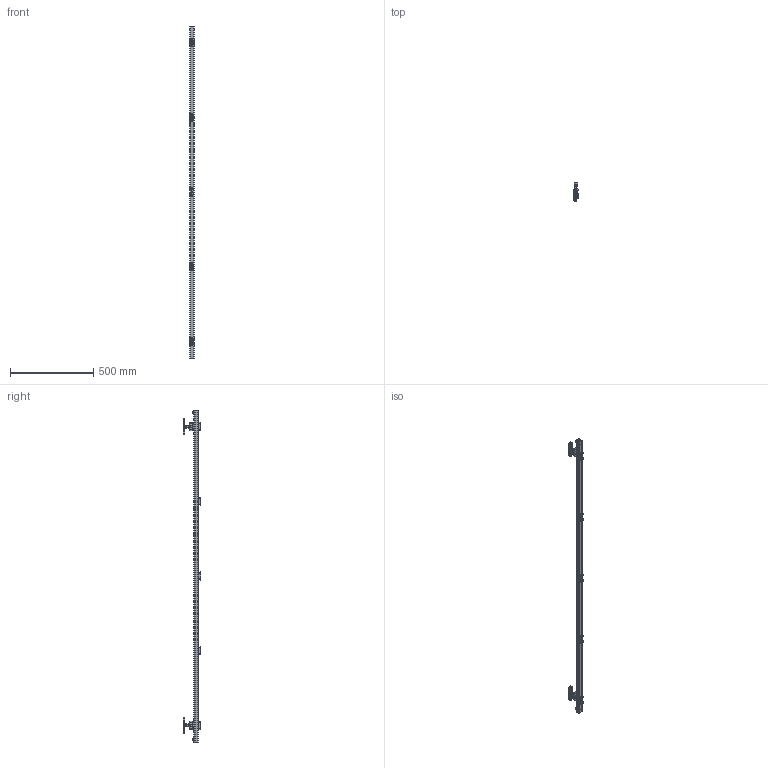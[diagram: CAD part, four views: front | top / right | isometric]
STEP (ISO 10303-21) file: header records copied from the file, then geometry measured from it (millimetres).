
FILE_DESCRIPTION(/* description */ ('Komplettsortiment Nr.0 - 2m'),/* implementation_level */ '2;1');
FILE_NAME(/* name */ 'D:\Public\STP\010339506-TP.stp',/* time_stamp */ '2020-05-13T16:17:50+02:00',/* author */ ('O. Loukota'),/* organization */ (''),/* preprocessor_version */ 'ST-DEVELOPER v17.2',/* originating_system */ 'Autodesk Inventor 2019',/* authorisation */ '');
FILE_SCHEMA (('AUTOMOTIVE_DESIGN { 1 0 10303 214 3 1 1 }'));
Length unit declared in the file: millimetre
Products named in the file (24): 010339506; 011337053; 010330823; 000302104; 000302101; DIN EN ISO 4017 - M8  x 16; DIN EN ISO 7093 - 8,4; DIN EN ISO 4035 - M8; 010336403; 337000122; 337000223; 336290000; 000303230; 000302243; 000304010; DIN 6798 - A  10,5; DIN EN ISO 4017 - M10  x 40; DIN EN ISO 4035 - M10; 010330969; 000301993; DIN EN ISO 4032 - M4; DIN EN ISO 7090 - 4,3; DIN EN ISO 7090 - 5,3; DIN EN ISO 10642 - M4  x  10
Assembly tree (54 placements, depth 3):
  010339506
    011337053
    010330823  x2
      000302104
      000302101
      DIN EN ISO 4017 - M8  x 16
      DIN EN ISO 7093 - 8,4
      DIN EN ISO 4035 - M8
    010336403  x2
      337000122
      337000223
      336290000
      000303230
      000302243
      000304010
      DIN 6798 - A  10,5
      DIN EN ISO 4017 - M10  x 40
      DIN EN ISO 4035 - M10
    010330969  x2
    000301993  x5
    DIN EN ISO 4032 - M4  x5
    DIN EN ISO 7090 - 4,3  x5
    DIN EN ISO 7090 - 5,3  x5
    DIN EN ISO 10642 - M4  x  10  x5
Bounding box: 31.94 x 105.59 x 2000 mm (x, y, z)
Volume: 441857.5 mm3; surface area: 463029.1 mm2
Topology: 72 solids, 72 shells, 1473 faces, 3750 edges, 2463 vertices
Faces by surface type: plane 803, cylinder 450, cone 178, torus 28, bspline 14
Full cylindrical faces by diameter (mm): 3.242 x5, 4 x25, 4.3 x5, 5.3 x5, 6 x22, 6.1 x12, 6.647 x2, 7.3 x2, 7.323 x2, 7.53 x5, 7.8 x2, 8 x6, 8.376 x6, 8.4 x2, 9 x7, 9.188 x2, 10 x9, 10.5 x2, 11.4 x2, 15.4 x2, 24 x2
Entity records: 17225 total; most frequent: CARTESIAN_POINT 3387, DIRECTION 2886, ORIENTED_EDGE 2618, EDGE_CURVE 1309, AXIS2_PLACEMENT_3D 1076, VERTEX_POINT 854, LINE 734, VECTOR 734
